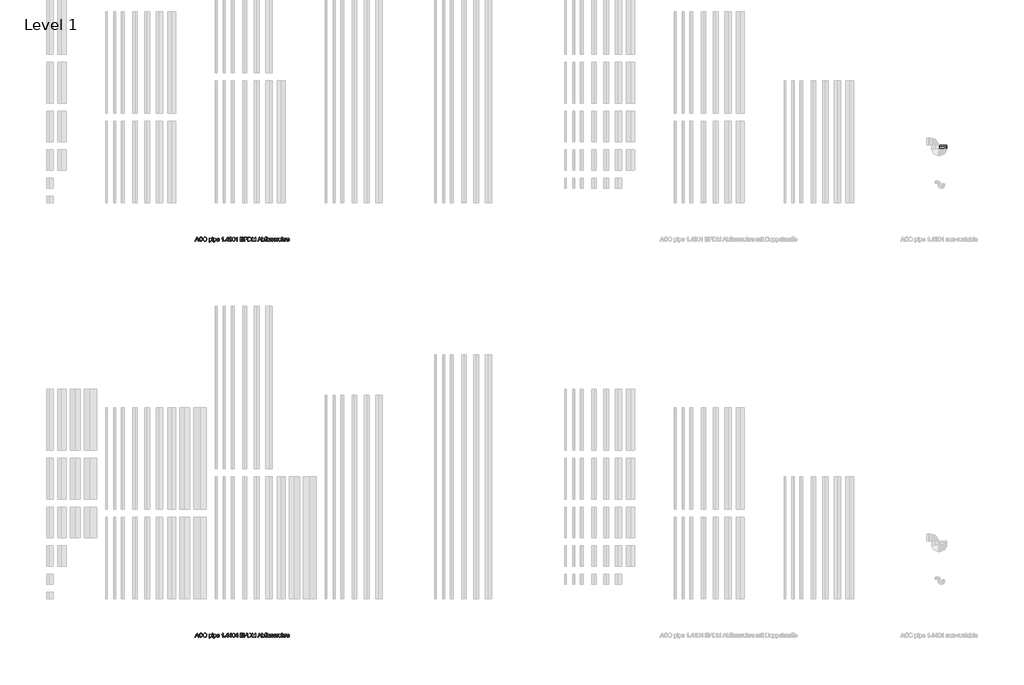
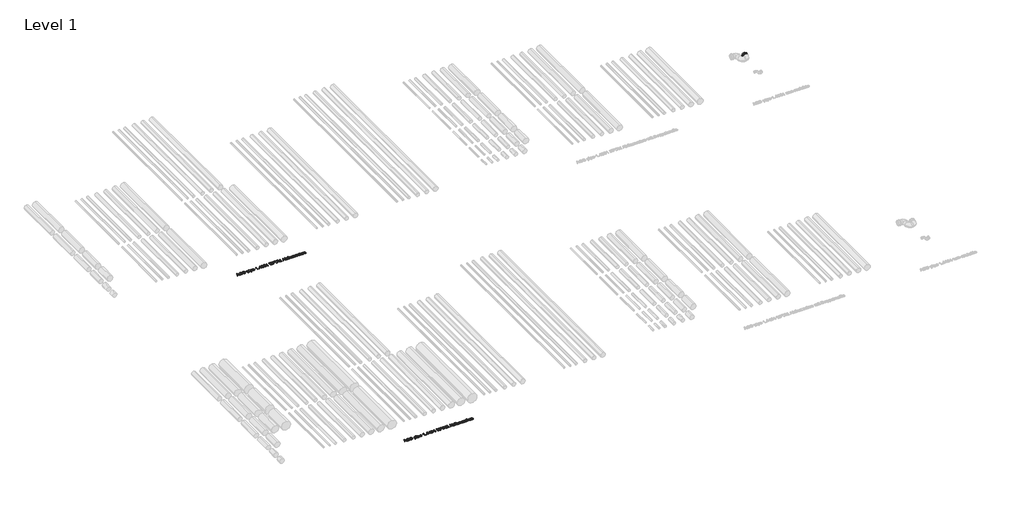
# One storey, part 9 of 13: 2 proxies, 1 pipe fitting.
"""IFC4 building model written with IfcOpenShell, lengths in millimetres."""

from ifc_helpers import new_model, si_unit, origin, origin_with_axes, place, context, project, spatial, polyline, outline, extrude, transform, mapped, element, save
from components import std_nested_4988e8d9

model = new_model("IFC4")

# Units and contexts
model_context = context("Model", 3, world=origin())
ifc_project = project(units=[si_unit("LENGTHUNIT", "METRE", prefix="MILLI")], contexts=[model_context])

# Site, building, storey
site = spatial("IfcSite", under=ifc_project)
building = spatial("IfcBuilding", under=site)
storey = spatial("IfcBuildingStorey", under=building, Name="Level 1", Elevation=0.0)

# Proxies
placement = place(None, origin())
element("IfcBuildingElementProxy", 1, Name="100mm ACO", ObjectType="100mm ACO", at=placement, inside=storey, context=model_context, shape_type="SweptSolid", body=[
    extrude(outline(polyline([(3288.8757357, -969.2114353), (3275.0736524, -969.2114353), (3263.0944857, -939.5818057), (3220.6465691, -939.5818057), (3209.1303654, -969.2114353), (3195.3572172, -969.2114353), (3234.2171709, -869.2114353), (3248.3954116, -869.2114353), (3288.8757357, -969.2114353)]), holes=[polyline([(3258.5805968, -928.4706946), (3244.156407, -891.8098149), (3241.1905505, -880.1489353), (3236.5319857, -898.7253242), (3224.9868468, -928.4706946), (3258.5805968, -928.4706946)])]), origin_with_axes(), (0.0, 0.0, 1.0), 10.0),
    extrude(outline(polyline([(3382.8572172, -937.3827316), (3376.9435887, -952.2083971), (3367.8253885, -962.7154862), (3356.0379174, -968.9763369), (3342.1164765, -971.0632872), (3321.2108052, -967.2076737), (3306.8734209, -955.6408335), (3298.5834904, -938.648646), (3295.8201802, -918.5169909), (3299.0645378, -897.1302721), (3308.7976107, -880.9446529), (3323.63051, -870.7558508), (3342.1743468, -867.3595835), (3355.4881489, -869.1716494), (3366.7258515, -874.6078473), (3375.3955563, -883.5379689), (3381.0053654, -895.8318057), (3368.0424024, -898.8410649), (3358.1899718, -883.5777548), (3341.6824487, -878.4706946), (3327.4608052, -881.1797513), (3317.1454116, -889.3069214), (3310.8737103, -901.9913832), (3308.7831431, -918.3723149), (3310.9966848, -936.7353068), (3317.6373098, -949.6946529), (3327.8369626, -957.3877953), (3340.7275876, -959.9521761), (3351.296164, -958.3354226), (3359.6801339, -953.4851622), (3365.8794973, -945.3869272), (3369.8942542, -934.0262501), (3382.8572172, -937.3827316)])), origin_with_axes(), (0.0, 0.0, 1.0), 10.0),
    extrude(outline(polyline([(3442.203282, -867.3595835), (3460.6928654, -870.9330788), (3475.478745, -881.6535649), (3485.1792658, -898.2261923), (3488.4127728, -919.3561112), (3485.1611813, -940.3956078), (3475.406407, -956.8705788), (3460.6024429, -967.5151101), (3442.203282, -971.0632872), (3423.3303075, -967.3849017), (3408.5516616, -956.3497455), (3399.0030505, -940.0194504), (3395.8201802, -920.4556483), (3399.0464533, -898.3744851), (3408.7252728, -881.5522918), (3423.5473214, -870.9077605), (3442.203282, -867.3595835)]), holes=[polyline([(3442.0875413, -959.9521761), (3455.5279348, -957.2684376), (3466.1616154, -949.2172223), (3473.098826, -936.3844677), (3475.4498098, -919.3561112), (3473.0952091, -901.9479804), (3466.031407, -889.0754399), (3455.4013434, -881.1218809), (3442.3479579, -878.4706946), (3429.0016038, -881.0676274), (3418.2449487, -888.8584261), (3411.1485945, -902.0167015), (3408.7831431, -920.7160649), (3411.0979579, -936.5978647), (3418.0424024, -949.1159492), (3428.6833167, -957.2431193), (3442.0875413, -959.9521761)])]), origin_with_axes(), (0.0, 0.0, 1.0), 10.0),
    extrude(outline(polyline([(3557.0614996, -905.6987038), (3565.5178075, -897.7776969), (3577.1859209, -895.1373612), (3589.5123098, -897.7270603), (3598.9451802, -905.4961575), (3604.9347635, -917.4246876), (3606.9312913, -932.4926853), (3604.6743468, -948.3817189), (3597.9035135, -960.6321529), (3587.8485366, -968.4555036), (3575.7391616, -971.0632872), (3565.3658978, -968.9365511), (3557.2785135, -962.5563427), (3556.9312913, -996.9892131), (3543.9683283, -996.9892131), (3543.9683283, -896.9892131), (3556.9312913, -896.9892131), (3557.0614996, -905.6987038)]), holes=[polyline([(3574.3213376, -961.8040279), (3582.0940517, -959.9774943), (3588.3983052, -954.4978936), (3592.5758225, -945.4013948), (3593.9683283, -932.7241668), (3592.6264591, -920.6473439), (3588.6008515, -911.7316899), (3582.4846767, -906.2303879), (3574.8711061, -904.3966205), (3566.989885, -906.4401679), (3560.6494626, -912.5708103), (3556.4719452, -921.956661), (3555.0794394, -933.7658335), (3556.4140748, -945.8788254), (3560.4179811, -954.6715048), (3566.563091, -960.0208971), (3574.3213376, -961.8040279)])]), origin_with_axes(), (0.0, 0.0, 1.0), 10.0),
    extrude(outline(polyline([(3634.7090691, -969.2114353), (3621.7461061, -969.2114353), (3621.7461061, -896.9892131), (3634.7090691, -896.9892131), (3634.7090691, -969.2114353)])), origin_with_axes(), (0.0, 0.0, 1.0), 10.0),
    extrude(outline(polyline([(3634.7090691, -882.1743983), (3621.7461061, -882.1743983), (3621.7461061, -869.2114353), (3634.7090691, -869.2114353), (3634.7090691, -882.1743983)])), origin_with_axes(), (0.0, 0.0, 1.0), 10.0),
    extrude(outline(polyline([(3666.3207589, -905.6987038), (3674.7770667, -897.7776969), (3686.4451802, -895.1373612), (3698.7715691, -897.7270603), (3708.2044394, -905.4961575), (3714.1940228, -917.4246876), (3716.1905505, -932.4926853), (3713.9336061, -948.3817189), (3707.1627728, -960.6321529), (3697.1077959, -968.4555036), (3684.9984209, -971.0632872), (3674.625157, -968.9365511), (3666.5377728, -962.5563427), (3666.1905505, -996.9892131), (3653.2275876, -996.9892131), (3653.2275876, -896.9892131), (3666.1905505, -896.9892131), (3666.3207589, -905.6987038)]), holes=[polyline([(3683.5805968, -961.8040279), (3691.353311, -959.9774943), (3697.6575644, -954.4978936), (3701.8350818, -945.4013948), (3703.2275876, -932.7241668), (3701.8857184, -920.6473439), (3697.8601107, -911.7316899), (3691.743936, -906.2303879), (3684.1303654, -904.3966205), (3676.2491443, -906.4401679), (3669.9087218, -912.5708103), (3665.7312045, -921.956661), (3664.3386987, -933.7658335), (3665.6733341, -945.8788254), (3669.6772404, -954.6715048), (3675.8223503, -960.0208971), (3683.5805968, -961.8040279)])]), origin_with_axes(), (0.0, 0.0, 1.0), 10.0),
    extrude(outline(polyline([(3793.9683283, -935.878102), (3740.2646246, -935.878102), (3742.3371073, -947.0036807), (3747.0499255, -955.1489353), (3753.8316096, -960.1402548), (3762.1106894, -961.8040279), (3773.7860366, -958.1147918), (3781.0053654, -946.9892131), (3793.9683283, -948.4938427), (3789.5918816, -958.1147918), (3782.6546709, -965.2183798), (3773.4098792, -969.6020603), (3762.1106894, -971.0632872), (3747.5237392, -968.5567767), (3736.5175181, -961.0372455), (3729.6056258, -949.1774365), (3727.3016616, -933.6500927), (3729.5224371, -918.1118983), (3736.1847635, -905.8144446), (3746.8835482, -897.8066321), (3761.2136987, -895.1373612), (3776.4336061, -898.5951159), (3788.8612681, -910.3717362), (3792.6915633, -920.9077605), (3793.9683283, -935.878102)]), holes=[polyline([(3781.0053654, -926.6188427), (3778.922032, -916.4625927), (3774.1766616, -909.6049538), (3760.8954116, -904.3966205), (3753.0395089, -905.9446529), (3746.7171709, -910.5887501), (3740.2646246, -926.6188427), (3781.0053654, -926.6188427)])]), origin_with_axes(), (0.0, 0.0, 1.0), 10.0),
    extrude(outline(polyline([(3892.1164765, -969.2114353), (3879.1535135, -969.2114353), (3879.1535135, -891.4336575), (3855.0794394, -906.2484723), (3855.0794394, -896.9892131), (3873.3520089, -885.2704631), (3884.7090691, -871.0632872), (3892.1164765, -871.0632872), (3892.1164765, -969.2114353)])), origin_with_axes(), (0.0, 0.0, 1.0), 10.0),
    extrude(outline(polyline([(3943.9683283, -969.2114353), (3929.1535135, -969.2114353), (3929.1535135, -954.3966205), (3943.9683283, -954.3966205), (3943.9683283, -969.2114353)])), origin_with_axes(), (0.0, 0.0, 1.0), 10.0),
    extrude(outline(polyline([(4025.4498098, -945.1373612), (4012.4868468, -945.1373612), (4012.4868468, -969.2114353), (3999.5238839, -969.2114353), (3999.5238839, -945.1373612), (3956.9312913, -945.1373612), (3956.9312913, -935.878102), (4001.8386987, -871.0632872), (4012.4868468, -871.0632872), (4012.4868468, -935.878102), (4025.4498098, -935.878102), (4025.4498098, -945.1373612)]), holes=[polyline([(3999.5238839, -935.878102), (3999.5238839, -889.9868983), (3967.7530505, -935.878102), (3999.5238839, -935.878102)])]), origin_with_axes(), (0.0, 0.0, 1.0), 10.0),
    extrude(outline(polyline([(4085.8954116, -915.6090048), (4094.2251281, -918.8461286), (4100.2327959, -924.6367825), (4105.0794394, -940.1605094), (4102.5548445, -952.4688138), (4094.9810598, -962.368264), (4083.8916501, -968.8895314), (4070.8201802, -971.0632872), (4058.540811, -969.1463311), (4048.6124255, -963.3954631), (4041.6860656, -954.4978936), (4038.4127728, -943.1408335), (4051.3757357, -941.4336575), (4058.2044394, -956.7259029), (4071.2542079, -961.8040279), (4079.3235077, -960.2776969), (4086.0545552, -955.6987038), (4090.6009961, -948.9061691), (4092.1164765, -940.7392131), (4090.6950355, -932.9809666), (4086.4307126, -926.6622455), (4079.8732762, -922.4630267), (4071.572495, -921.0632872), (4062.4868468, -922.915139), (4063.9336061, -911.8040279), (4071.8039765, -911.3121298), (4078.2854579, -908.9105094), (4084.2171709, -903.4417594), (4086.5609209, -894.6165279), (4081.7721478, -882.6952316), (4070.6755042, -878.4706946), (4058.9422866, -883.2739353), (4053.2275876, -896.9892131), (4040.2646246, -894.7612038), (4044.1021535, -883.5741379), (4050.8114996, -875.5916436), (4059.7560887, -870.8064874), (4070.2993468, -869.2114353), (4081.764914, -871.103073), (4091.1616154, -876.7779862), (4097.4333167, -885.1872744), (4099.5238839, -895.2820372), (4096.1167658, -907.3480094), (4085.8954116, -915.6090048)])), origin_with_axes(), (0.0, 0.0, 1.0), 10.0),
    extrude(outline(polyline([(4149.4949487, -869.2114353), (4164.0909412, -872.3979226), (4174.5166501, -881.9573844), (4180.7720754, -897.8898207), (4182.8572172, -920.1952316), (4180.7015459, -942.6670198), (4174.234532, -958.5198844), (4163.7382936, -967.9274365), (4149.4949487, -971.0632872), (4134.9242745, -967.8840337), (4124.5166501, -958.3462733), (4118.2720754, -942.4500059), (4116.1905505, -920.1952316), (4118.3462218, -897.7270603), (4124.8132357, -881.8271761), (4135.2950066, -872.3653705), (4149.4949487, -869.2114353)]), holes=[polyline([(4149.5238839, -961.8040279), (4158.3635829, -959.3698554), (4164.7437913, -952.0673381), (4168.6066385, -939.2309666), (4169.8942542, -920.1952316), (4167.6373098, -895.9764816), (4160.8230737, -882.8109723), (4149.3792079, -878.4706946), (4140.5575934, -880.9482698), (4134.2316385, -888.3809955), (4130.4230448, -901.289705), (4129.1535135, -920.1952316), (4131.4538607, -944.2548381), (4138.2680968, -957.4637501), (4149.5238839, -961.8040279)])]), origin_with_axes(), (0.0, 0.0, 1.0), 10.0),
    extrude(outline(polyline([(4242.1164765, -969.2114353), (4229.1535135, -969.2114353), (4229.1535135, -891.4336575), (4205.0794394, -906.2484723), (4205.0794394, -896.9892131), (4223.3520089, -885.2704631), (4234.7090691, -871.0632872), (4242.1164765, -871.0632872), (4242.1164765, -969.2114353)])), origin_with_axes(), (0.0, 0.0, 1.0), 10.0),
    extrude(outline(polyline([(4390.2646246, -969.2114353), (4316.1905505, -969.2114353), (4316.1905505, -869.2114353), (4388.4127728, -869.2114353), (4388.4127728, -880.3225464), (4329.1535135, -880.3225464), (4329.1535135, -911.8040279), (4384.7090691, -911.8040279), (4384.7090691, -922.915139), (4329.1535135, -922.915139), (4329.1535135, -958.1003242), (4390.2646246, -958.1003242), (4390.2646246, -969.2114353)])), origin_with_axes(), (0.0, 0.0, 1.0), 10.0),
    extrude(outline(polyline([(4408.7831431, -869.2114353), (4446.3410135, -869.2114353), (4461.6477265, -870.0939585), (4473.5690228, -874.6801853), (4481.8878885, -884.7351622), (4484.7090691, -898.0308798), (4482.4846767, -910.4621587), (4475.8114996, -920.1518288), (4464.2338086, -926.3909781), (4447.2958746, -928.4706946), (4421.7461061, -928.4706946), (4421.7461061, -969.2114353), (4408.7831431, -969.2114353), (4408.7831431, -869.2114353)]), holes=[polyline([(4421.7461061, -917.3595835), (4447.8167079, -917.3595835), (4465.7637566, -912.6214469), (4470.2505187, -906.6987762), (4471.7461061, -898.4070372), (4468.6355737, -887.4261344), (4460.9966848, -881.4944214), (4447.5273561, -880.3225464), (4421.7461061, -880.3225464), (4421.7461061, -917.3595835)])]), origin_with_axes(), (0.0, 0.0, 1.0), 10.0),
    extrude(outline(polyline([(4501.3757357, -869.2114353), (4535.4035135, -869.2114353), (4550.797032, -870.1373612), (4563.1234209, -874.6367825), (4573.4098792, -884.4892131), (4580.3398561, -898.9134029), (4582.8572172, -918.6616668), (4580.2675181, -938.7969388), (4572.4984209, -954.9897918), (4558.4142195, -965.6560244), (4536.8792079, -969.2114353), (4501.3757357, -969.2114353), (4501.3757357, -869.2114353)]), holes=[polyline([(4514.3386987, -958.1003242), (4535.6639302, -958.1003242), (4547.3103422, -957.2612038), (4557.7125413, -952.7328473), (4566.4364996, -940.6379399), (4569.8942542, -918.3723149), (4568.5632357, -904.0783335), (4563.6731894, -891.9689585), (4555.4989996, -883.9683798), (4546.500157, -880.8723149), (4535.2588376, -880.3225464), (4514.3386987, -880.3225464), (4514.3386987, -958.1003242)])]), origin_with_axes(), (0.0, 0.0, 1.0), 10.0),
    extrude(outline(polyline([(4693.9683283, -969.2114353), (4681.0053654, -969.2114353), (4681.0053654, -885.415139), (4655.484532, -969.2114353), (4641.7113839, -969.2114353), (4614.7148561, -884.0551853), (4614.3386987, -969.2114353), (4601.3757357, -969.2114353), (4601.3757357, -869.2114353), (4621.0805968, -869.2114353), (4643.9104579, -940.0737038), (4648.3375413, -954.8885186), (4653.3433283, -938.8584261), (4674.697495, -869.2114353), (4693.9683283, -869.2114353), (4693.9683283, -969.2114353)])), origin_with_axes(), (0.0, 0.0, 1.0), 10.0),
    extrude(outline(polyline([(4837.0238839, -969.2114353), (4823.2218005, -969.2114353), (4811.2426339, -939.5818057), (4768.7947172, -939.5818057), (4757.2785135, -969.2114353), (4743.5053654, -969.2114353), (4782.3653191, -869.2114353), (4796.5435598, -869.2114353), (4837.0238839, -969.2114353)]), holes=[polyline([(4806.728745, -928.4706946), (4792.3045552, -891.8098149), (4789.3386987, -880.1489353), (4784.6801339, -898.7253242), (4773.134995, -928.4706946), (4806.728745, -928.4706946)])]), origin_with_axes(), (0.0, 0.0, 1.0), 10.0),
    extrude(outline(polyline([(4858.9567542, -904.1362038), (4867.3190228, -897.3870719), (4878.4011987, -895.1373612), (4890.8252438, -897.6836575), (4900.4932126, -905.3225464), (4906.7106605, -917.0702316), (4908.7831431, -931.9429168), (4906.5044973, -948.6783045), (4899.6685598, -960.9793751), (4889.7799603, -968.5423092), (4878.3433283, -971.0632872), (4867.3262566, -968.5893288), (4859.0435598, -961.1674538), (4858.7831431, -969.2114353), (4845.8201802, -969.2114353), (4845.8201802, -869.2114353), (4858.7831431, -869.2114353), (4858.9567542, -904.1362038)]), holes=[polyline([(4877.1280505, -961.8040279), (4884.5463086, -959.9123902), (4890.5395089, -954.237477), (4894.5000123, -945.1409781), (4895.8201802, -932.9845835), (4890.9590691, -912.1078473), (4885.172032, -906.3244272), (4877.5331431, -904.3966205), (4869.9087218, -906.3859145), (4863.9336061, -912.3537964), (4858.7831431, -932.4926853), (4860.9243468, -949.4487038), (4867.3768931, -958.143727), (4877.1280505, -961.8040279)])]), origin_with_axes(), (0.0, 0.0, 1.0), 10.0),
    extrude(outline(polyline([(4956.9312913, -868.3144446), (4955.3398561, -876.6188427), (4949.0319857, -876.6188427), (4942.7241154, -878.7455788), (4940.2646246, -889.2635186), (4940.2646246, -896.9892131), (4951.3757357, -896.9892131), (4951.3757357, -906.2484723), (4940.2646246, -906.2484723), (4940.2646246, -969.2114353), (4927.3016616, -969.2114353), (4927.3016616, -906.2484723), (4916.1905505, -906.2484723), (4916.1905505, -896.9892131), (4927.3016616, -896.9892131), (4927.3016616, -889.0609723), (4928.2709904, -879.0783335), (4933.3780505, -870.9764816), (4946.1384672, -867.3595835), (4956.9312913, -868.3144446)])), origin_with_axes(), (0.0, 0.0, 1.0), 10.0),
    extrude(outline(polyline([(4975.4498098, -969.2114353), (4962.4868468, -969.2114353), (4962.4868468, -869.2114353), (4975.4498098, -869.2114353), (4975.4498098, -969.2114353)])), origin_with_axes(), (0.0, 0.0, 1.0), 10.0),
    extrude(outline(polyline([(5053.2275876, -969.2114353), (5042.1164765, -969.2114353), (5042.1164765, -958.7079631), (5031.8734209, -967.9744561), (5018.9104579, -971.0632872), (5004.7900876, -967.5476622), (4996.1384672, -957.8688427), (4993.9683283, -941.8676853), (4993.9683283, -896.9892131), (5006.9312913, -896.9892131), (5006.9312913, -937.9614353), (5007.828282, -952.0528705), (5012.515782, -959.0551853), (5021.5435598, -961.8040279), (5034.2895089, -956.8850464), (5038.7708457, -949.3329631), (5040.2646246, -936.5146761), (5040.2646246, -896.9892131), (5053.2275876, -896.9892131), (5053.2275876, -969.2114353)])), origin_with_axes(), (0.0, 0.0, 1.0), 10.0),
    extrude(outline(polyline([(5112.4868468, -917.3595835), (5107.6980737, -907.6373612), (5096.6303654, -904.3966205), (5085.3167079, -907.1743983), (5081.0053654, -915.2473149), (5083.8554811, -922.3943057), (5097.2958746, -926.2716205), (5115.0186755, -930.4382872), (5124.0609209, -936.7606251), (5127.3016616, -948.0887501), (5125.2906663, -957.0188717), (5119.2576802, -964.4226622), (5109.8609788, -969.4031309), (5097.7588376, -971.0632872), (5085.2841559, -969.6671645), (5075.86937, -965.4787964), (5069.5072461, -958.5054168), (5066.1905505, -948.7542594), (5079.1535135, -946.9892131), (5084.7524718, -958.1147918), (5097.7588376, -961.8040279), (5110.0562913, -957.9701159), (5114.3386987, -948.6385186), (5112.4145089, -942.6634029), (5107.6112681, -939.2924538), (5094.0261987, -936.3989353), (5073.0915922, -928.5864353), (5068.0424024, -915.9996298), (5069.9123387, -907.7133161), (5075.5221478, -901.0256714), (5084.2931258, -896.6094388), (5095.6465691, -895.1373612), (5107.578716, -896.424977), (5116.5233052, -900.2878242), (5122.4803364, -906.7186691), (5125.4498098, -915.7102779), (5112.4868468, -917.3595835)])), origin_with_axes(), (0.0, 0.0, 1.0), 10.0),
    extrude(outline(polyline([(5181.0053654, -917.3595835), (5176.2165922, -907.6373612), (5165.1488839, -904.3966205), (5153.8352265, -907.1743983), (5149.5238839, -915.2473149), (5152.3739996, -922.3943057), (5165.8143931, -926.2716205), (5183.5371941, -930.4382872), (5192.5794394, -936.7606251), (5195.8201802, -948.0887501), (5193.8091848, -957.0188717), (5187.7761987, -964.4226622), (5178.3794973, -969.4031309), (5166.2773561, -971.0632872), (5153.8026744, -969.6671645), (5144.3878885, -965.4787964), (5138.0257647, -958.5054168), (5134.7090691, -948.7542594), (5147.672032, -946.9892131), (5153.2709904, -958.1147918), (5166.2773561, -961.8040279), (5178.5748098, -957.9701159), (5182.8572172, -948.6385186), (5180.9330274, -942.6634029), (5176.1297866, -939.2924538), (5162.5447172, -936.3989353), (5141.6101107, -928.5864353), (5136.5609209, -915.9996298), (5138.4308573, -907.7133161), (5144.0406663, -901.0256714), (5152.8116443, -896.6094388), (5164.1650876, -895.1373612), (5176.0972346, -896.424977), (5185.0418237, -900.2878242), (5190.9988549, -906.7186691), (5193.9683283, -915.7102779), (5181.0053654, -917.3595835)])), origin_with_axes(), (0.0, 0.0, 1.0), 10.0),
    extrude(outline(polyline([(5247.672032, -897.9730094), (5243.6211061, -906.2484723), (5235.1141616, -904.3966205), (5229.3198908, -906.0242247), (5225.1315228, -910.9070372), (5221.7461061, -929.1362038), (5221.7461061, -969.2114353), (5208.7831431, -969.2114353), (5208.7831431, -896.9892131), (5219.8942542, -896.9892131), (5219.8942542, -907.6952316), (5226.8242311, -898.2768288), (5235.2588376, -895.1373612), (5247.672032, -897.9730094)])), origin_with_axes(), (0.0, 0.0, 1.0), 10.0),
    extrude(outline(polyline([(5284.6801339, -895.1373612), (5297.8564938, -897.5317478), (5308.5661292, -904.7149075), (5315.6733341, -916.310683), (5318.0424024, -931.9429168), (5315.4780216, -950.2154862), (5307.7848792, -962.2091205), (5296.8799313, -968.8497455), (5284.6801339, -971.0632872), (5272.0897114, -968.7882582), (5261.2860366, -961.9631714), (5253.853311, -950.1974017), (5251.3757357, -933.1003242), (5253.7701223, -916.383021), (5260.953282, -904.5412964), (5271.6737681, -897.488345), (5284.6801339, -895.1373612)]), holes=[polyline([(5284.6801339, -961.8040279), (5293.4872809, -959.7966494), (5299.8855737, -953.774514), (5305.0794394, -932.6373612), (5303.6109788, -920.3543751), (5299.2055968, -911.5146761), (5292.6373098, -906.1761344), (5284.6801339, -904.3966205), (5276.5674313, -906.2014527), (5270.0533978, -911.6159492), (5265.7673735, -920.6039411), (5264.3386987, -933.1292594), (5265.7926917, -945.6111749), (5270.1546709, -954.5846992), (5276.6940228, -959.9991957), (5284.6801339, -961.8040279)])]), origin_with_axes(), (0.0, 0.0, 1.0), 10.0),
    extrude(outline(polyline([(5392.1164765, -969.2114353), (5379.1535135, -969.2114353), (5379.1535135, -922.5100464), (5375.4642774, -908.924977), (5364.4544394, -904.3966205), (5351.5204116, -909.7351622), (5347.245238, -917.1678879), (5345.8201802, -928.7889816), (5345.8201802, -969.2114353), (5332.8572172, -969.2114353), (5332.8572172, -869.2114353), (5345.8201802, -869.2114353), (5345.8201802, -905.0331946), (5355.520701, -897.6113196), (5367.3768931, -895.1373612), (5380.6581431, -898.0019446), (5389.5557126, -906.8127085), (5392.1164765, -923.3202316), (5392.1164765, -969.2114353)])), origin_with_axes(), (0.0, 0.0, 1.0), 10.0),
    extrude(outline(polyline([(5449.5238839, -897.9730094), (5445.4729579, -906.2484723), (5436.9660135, -904.3966205), (5431.1717427, -906.0242247), (5426.9833746, -910.9070372), (5423.5979579, -929.1362038), (5423.5979579, -969.2114353), (5410.634995, -969.2114353), (5410.634995, -896.9892131), (5421.7461061, -896.9892131), (5421.7461061, -907.6952316), (5428.6760829, -898.2768288), (5437.1106894, -895.1373612), (5449.5238839, -897.9730094)])), origin_with_axes(), (0.0, 0.0, 1.0), 10.0),
    extrude(outline(polyline([(5519.8942542, -935.878102), (5466.1905505, -935.878102), (5468.2630332, -947.0036807), (5472.9758515, -955.1489353), (5479.7575355, -960.1402548), (5488.0366154, -961.8040279), (5499.7119626, -958.1147918), (5506.9312913, -946.9892131), (5519.8942542, -948.4938427), (5515.5178075, -958.1147918), (5508.5805968, -965.2183798), (5499.3358052, -969.6020603), (5488.0366154, -971.0632872), (5473.4496651, -968.5567767), (5462.4434441, -961.0372455), (5455.5315517, -949.1774365), (5453.2275876, -933.6500927), (5455.448363, -918.1118983), (5462.1106894, -905.8144446), (5472.8094741, -897.8066321), (5487.1396246, -895.1373612), (5502.359532, -898.5951159), (5514.7871941, -910.3717362), (5518.6174892, -920.9077605), (5519.8942542, -935.878102)]), holes=[polyline([(5506.9312913, -926.6188427), (5504.8479579, -916.4625927), (5500.1025876, -909.6049538), (5486.8213376, -904.3966205), (5478.9654348, -905.9446529), (5472.6430968, -910.5887501), (5466.1905505, -926.6188427), (5506.9312913, -926.6188427)])]), origin_with_axes(), (0.0, 0.0, 1.0), 10.0),
])
element("IfcBuildingElementProxy", 2, Name="100mm ACO", ObjectType="100mm ACO", at=placement, inside=storey, context=model_context, shape_type="SweptSolid", body=[
    extrude(outline(polyline([(3288.8757357, -10719.2114353), (3275.0736524, -10719.2114353), (3263.0944857, -10689.5818057), (3220.6465691, -10689.5818057), (3209.1303654, -10719.2114353), (3195.3572172, -10719.2114353), (3234.2171709, -10619.2114353), (3248.3954116, -10619.2114353), (3288.8757357, -10719.2114353)]), holes=[polyline([(3258.5805968, -10678.4706946), (3244.156407, -10641.8098149), (3241.1905505, -10630.1489353), (3236.5319857, -10648.7253242), (3224.9868468, -10678.4706946), (3258.5805968, -10678.4706946)])]), origin_with_axes(), (0.0, 0.0, 1.0), 10.0),
    extrude(outline(polyline([(3382.8572172, -10687.3827316), (3376.9435887, -10702.2083971), (3367.8253885, -10712.7154862), (3356.0379174, -10718.9763369), (3342.1164765, -10721.0632872), (3321.2108052, -10717.2076737), (3306.8734209, -10705.6408335), (3298.5834904, -10688.648646), (3295.8201802, -10668.5169909), (3299.0645378, -10647.1302721), (3308.7976107, -10630.9446529), (3323.63051, -10620.7558508), (3342.1743468, -10617.3595835), (3355.4881489, -10619.1716494), (3366.7258515, -10624.6078473), (3375.3955563, -10633.5379689), (3381.0053654, -10645.8318057), (3368.0424024, -10648.8410649), (3358.1899718, -10633.5777548), (3341.6824487, -10628.4706946), (3327.4608052, -10631.1797513), (3317.1454116, -10639.3069214), (3310.8737103, -10651.9913832), (3308.7831431, -10668.3723149), (3310.9966848, -10686.7353068), (3317.6373098, -10699.6946529), (3327.8369626, -10707.3877953), (3340.7275876, -10709.9521761), (3351.296164, -10708.3354226), (3359.6801339, -10703.4851622), (3365.8794973, -10695.3869272), (3369.8942542, -10684.0262501), (3382.8572172, -10687.3827316)])), origin_with_axes(), (0.0, 0.0, 1.0), 10.0),
    extrude(outline(polyline([(3442.203282, -10617.3595835), (3460.6928654, -10620.9330788), (3475.478745, -10631.6535649), (3485.1792658, -10648.2261923), (3488.4127728, -10669.3561112), (3485.1611813, -10690.3956078), (3475.406407, -10706.8705788), (3460.6024429, -10717.5151101), (3442.203282, -10721.0632872), (3423.3303075, -10717.3849017), (3408.5516616, -10706.3497455), (3399.0030505, -10690.0194504), (3395.8201802, -10670.4556483), (3399.0464533, -10648.3744851), (3408.7252728, -10631.5522918), (3423.5473214, -10620.9077605), (3442.203282, -10617.3595835)]), holes=[polyline([(3442.0875413, -10709.9521761), (3455.5279348, -10707.2684376), (3466.1616154, -10699.2172223), (3473.098826, -10686.3844677), (3475.4498098, -10669.3561112), (3473.0952091, -10651.9479804), (3466.031407, -10639.0754399), (3455.4013434, -10631.1218809), (3442.3479579, -10628.4706946), (3429.0016038, -10631.0676274), (3418.2449487, -10638.8584261), (3411.1485945, -10652.0167015), (3408.7831431, -10670.7160649), (3411.0979579, -10686.5978647), (3418.0424024, -10699.1159492), (3428.6833167, -10707.2431193), (3442.0875413, -10709.9521761)])]), origin_with_axes(), (0.0, 0.0, 1.0), 10.0),
    extrude(outline(polyline([(3557.0614996, -10655.6987038), (3565.5178075, -10647.7776969), (3577.1859209, -10645.1373612), (3589.5123098, -10647.7270603), (3598.9451802, -10655.4961575), (3604.9347635, -10667.4246876), (3606.9312913, -10682.4926853), (3604.6743468, -10698.3817189), (3597.9035135, -10710.6321529), (3587.8485366, -10718.4555036), (3575.7391616, -10721.0632872), (3565.3658978, -10718.9365511), (3557.2785135, -10712.5563427), (3556.9312913, -10746.9892131), (3543.9683283, -10746.9892131), (3543.9683283, -10646.9892131), (3556.9312913, -10646.9892131), (3557.0614996, -10655.6987038)]), holes=[polyline([(3574.3213376, -10711.8040279), (3582.0940517, -10709.9774943), (3588.3983052, -10704.4978936), (3592.5758225, -10695.4013948), (3593.9683283, -10682.7241668), (3592.6264591, -10670.6473439), (3588.6008515, -10661.7316899), (3582.4846767, -10656.2303879), (3574.8711061, -10654.3966205), (3566.989885, -10656.4401679), (3560.6494626, -10662.5708103), (3556.4719452, -10671.956661), (3555.0794394, -10683.7658335), (3556.4140748, -10695.8788254), (3560.4179811, -10704.6715048), (3566.563091, -10710.0208971), (3574.3213376, -10711.8040279)])]), origin_with_axes(), (0.0, 0.0, 1.0), 10.0),
    extrude(outline(polyline([(3634.7090691, -10719.2114353), (3621.7461061, -10719.2114353), (3621.7461061, -10646.9892131), (3634.7090691, -10646.9892131), (3634.7090691, -10719.2114353)])), origin_with_axes(), (0.0, 0.0, 1.0), 10.0),
    extrude(outline(polyline([(3634.7090691, -10632.1743983), (3621.7461061, -10632.1743983), (3621.7461061, -10619.2114353), (3634.7090691, -10619.2114353), (3634.7090691, -10632.1743983)])), origin_with_axes(), (0.0, 0.0, 1.0), 10.0),
    extrude(outline(polyline([(3666.3207589, -10655.6987038), (3674.7770667, -10647.7776969), (3686.4451802, -10645.1373612), (3698.7715691, -10647.7270603), (3708.2044394, -10655.4961575), (3714.1940228, -10667.4246876), (3716.1905505, -10682.4926853), (3713.9336061, -10698.3817189), (3707.1627728, -10710.6321529), (3697.1077959, -10718.4555036), (3684.9984209, -10721.0632872), (3674.625157, -10718.9365511), (3666.5377728, -10712.5563427), (3666.1905505, -10746.9892131), (3653.2275876, -10746.9892131), (3653.2275876, -10646.9892131), (3666.1905505, -10646.9892131), (3666.3207589, -10655.6987038)]), holes=[polyline([(3683.5805968, -10711.8040279), (3691.353311, -10709.9774943), (3697.6575644, -10704.4978936), (3701.8350818, -10695.4013948), (3703.2275876, -10682.7241668), (3701.8857184, -10670.6473439), (3697.8601107, -10661.7316899), (3691.743936, -10656.2303879), (3684.1303654, -10654.3966205), (3676.2491443, -10656.4401679), (3669.9087218, -10662.5708103), (3665.7312045, -10671.956661), (3664.3386987, -10683.7658335), (3665.6733341, -10695.8788254), (3669.6772404, -10704.6715048), (3675.8223503, -10710.0208971), (3683.5805968, -10711.8040279)])]), origin_with_axes(), (0.0, 0.0, 1.0), 10.0),
    extrude(outline(polyline([(3793.9683283, -10685.878102), (3740.2646246, -10685.878102), (3742.3371073, -10697.0036807), (3747.0499255, -10705.1489353), (3753.8316096, -10710.1402548), (3762.1106894, -10711.8040279), (3773.7860366, -10708.1147918), (3781.0053654, -10696.9892131), (3793.9683283, -10698.4938427), (3789.5918816, -10708.1147918), (3782.6546709, -10715.2183798), (3773.4098792, -10719.6020603), (3762.1106894, -10721.0632872), (3747.5237392, -10718.5567767), (3736.5175181, -10711.0372455), (3729.6056258, -10699.1774365), (3727.3016616, -10683.6500927), (3729.5224371, -10668.1118983), (3736.1847635, -10655.8144446), (3746.8835482, -10647.8066321), (3761.2136987, -10645.1373612), (3776.4336061, -10648.5951159), (3788.8612681, -10660.3717362), (3792.6915633, -10670.9077605), (3793.9683283, -10685.878102)]), holes=[polyline([(3781.0053654, -10676.6188427), (3778.922032, -10666.4625927), (3774.1766616, -10659.6049538), (3760.8954116, -10654.3966205), (3753.0395089, -10655.9446529), (3746.7171709, -10660.5887501), (3740.2646246, -10676.6188427), (3781.0053654, -10676.6188427)])]), origin_with_axes(), (0.0, 0.0, 1.0), 10.0),
    extrude(outline(polyline([(3892.1164765, -10719.2114353), (3879.1535135, -10719.2114353), (3879.1535135, -10641.4336575), (3855.0794394, -10656.2484723), (3855.0794394, -10646.9892131), (3873.3520089, -10635.2704631), (3884.7090691, -10621.0632872), (3892.1164765, -10621.0632872), (3892.1164765, -10719.2114353)])), origin_with_axes(), (0.0, 0.0, 1.0), 10.0),
    extrude(outline(polyline([(3943.9683283, -10719.2114353), (3929.1535135, -10719.2114353), (3929.1535135, -10704.3966205), (3943.9683283, -10704.3966205), (3943.9683283, -10719.2114353)])), origin_with_axes(), (0.0, 0.0, 1.0), 10.0),
    extrude(outline(polyline([(4025.4498098, -10695.1373612), (4012.4868468, -10695.1373612), (4012.4868468, -10719.2114353), (3999.5238839, -10719.2114353), (3999.5238839, -10695.1373612), (3956.9312913, -10695.1373612), (3956.9312913, -10685.878102), (4001.8386987, -10621.0632872), (4012.4868468, -10621.0632872), (4012.4868468, -10685.878102), (4025.4498098, -10685.878102), (4025.4498098, -10695.1373612)]), holes=[polyline([(3999.5238839, -10685.878102), (3999.5238839, -10639.9868983), (3967.7530505, -10685.878102), (3999.5238839, -10685.878102)])]), origin_with_axes(), (0.0, 0.0, 1.0), 10.0),
    extrude(outline(polyline([(4103.2275876, -10695.1373612), (4090.2646246, -10695.1373612), (4090.2646246, -10719.2114353), (4077.3016616, -10719.2114353), (4077.3016616, -10695.1373612), (4034.7090691, -10695.1373612), (4034.7090691, -10685.878102), (4079.6164765, -10621.0632872), (4090.2646246, -10621.0632872), (4090.2646246, -10685.878102), (4103.2275876, -10685.878102), (4103.2275876, -10695.1373612)]), holes=[polyline([(4077.3016616, -10685.878102), (4077.3016616, -10639.9868983), (4045.5308283, -10685.878102), (4077.3016616, -10685.878102)])]), origin_with_axes(), (0.0, 0.0, 1.0), 10.0),
    extrude(outline(polyline([(4149.4949487, -10619.2114353), (4164.0909412, -10622.3979226), (4174.5166501, -10631.9573844), (4180.7720754, -10647.8898207), (4182.8572172, -10670.1952316), (4180.7015459, -10692.6670198), (4174.234532, -10708.5198844), (4163.7382936, -10717.9274365), (4149.4949487, -10721.0632872), (4134.9242745, -10717.8840337), (4124.5166501, -10708.3462733), (4118.2720754, -10692.4500059), (4116.1905505, -10670.1952316), (4118.3462218, -10647.7270603), (4124.8132357, -10631.8271761), (4135.2950066, -10622.3653705), (4149.4949487, -10619.2114353)]), holes=[polyline([(4149.5238839, -10711.8040279), (4158.3635829, -10709.3698554), (4164.7437913, -10702.0673381), (4168.6066385, -10689.2309666), (4169.8942542, -10670.1952316), (4167.6373098, -10645.9764816), (4160.8230737, -10632.8109723), (4149.3792079, -10628.4706946), (4140.5575934, -10630.9482698), (4134.2316385, -10638.3809955), (4130.4230448, -10651.289705), (4129.1535135, -10670.1952316), (4131.4538607, -10694.2548381), (4138.2680968, -10707.4637501), (4149.5238839, -10711.8040279)])]), origin_with_axes(), (0.0, 0.0, 1.0), 10.0),
    extrude(outline(polyline([(4258.7831431, -10695.1373612), (4245.8201802, -10695.1373612), (4245.8201802, -10719.2114353), (4232.8572172, -10719.2114353), (4232.8572172, -10695.1373612), (4190.2646246, -10695.1373612), (4190.2646246, -10685.878102), (4235.172032, -10621.0632872), (4245.8201802, -10621.0632872), (4245.8201802, -10685.878102), (4258.7831431, -10685.878102), (4258.7831431, -10695.1373612)]), holes=[polyline([(4232.8572172, -10685.878102), (4232.8572172, -10639.9868983), (4201.0863839, -10685.878102), (4232.8572172, -10685.878102)])]), origin_with_axes(), (0.0, 0.0, 1.0), 10.0),
    extrude(outline(polyline([(4390.2646246, -10719.2114353), (4316.1905505, -10719.2114353), (4316.1905505, -10619.2114353), (4388.4127728, -10619.2114353), (4388.4127728, -10630.3225464), (4329.1535135, -10630.3225464), (4329.1535135, -10661.8040279), (4384.7090691, -10661.8040279), (4384.7090691, -10672.915139), (4329.1535135, -10672.915139), (4329.1535135, -10708.1003242), (4390.2646246, -10708.1003242), (4390.2646246, -10719.2114353)])), origin_with_axes(), (0.0, 0.0, 1.0), 10.0),
    extrude(outline(polyline([(4408.7831431, -10619.2114353), (4446.3410135, -10619.2114353), (4461.6477265, -10620.0939585), (4473.5690228, -10624.6801853), (4481.8878885, -10634.7351622), (4484.7090691, -10648.0308798), (4482.4846767, -10660.4621587), (4475.8114996, -10670.1518288), (4464.2338086, -10676.3909781), (4447.2958746, -10678.4706946), (4421.7461061, -10678.4706946), (4421.7461061, -10719.2114353), (4408.7831431, -10719.2114353), (4408.7831431, -10619.2114353)]), holes=[polyline([(4421.7461061, -10667.3595835), (4447.8167079, -10667.3595835), (4465.7637566, -10662.6214469), (4470.2505187, -10656.6987762), (4471.7461061, -10648.4070372), (4468.6355737, -10637.4261344), (4460.9966848, -10631.4944214), (4447.5273561, -10630.3225464), (4421.7461061, -10630.3225464), (4421.7461061, -10667.3595835)])]), origin_with_axes(), (0.0, 0.0, 1.0), 10.0),
    extrude(outline(polyline([(4501.3757357, -10619.2114353), (4535.4035135, -10619.2114353), (4550.797032, -10620.1373612), (4563.1234209, -10624.6367825), (4573.4098792, -10634.4892131), (4580.3398561, -10648.9134029), (4582.8572172, -10668.6616668), (4580.2675181, -10688.7969388), (4572.4984209, -10704.9897918), (4558.4142195, -10715.6560244), (4536.8792079, -10719.2114353), (4501.3757357, -10719.2114353), (4501.3757357, -10619.2114353)]), holes=[polyline([(4514.3386987, -10708.1003242), (4535.6639302, -10708.1003242), (4547.3103422, -10707.2612038), (4557.7125413, -10702.7328473), (4566.4364996, -10690.6379399), (4569.8942542, -10668.3723149), (4568.5632357, -10654.0783335), (4563.6731894, -10641.9689585), (4555.4989996, -10633.9683798), (4546.500157, -10630.8723149), (4535.2588376, -10630.3225464), (4514.3386987, -10630.3225464), (4514.3386987, -10708.1003242)])]), origin_with_axes(), (0.0, 0.0, 1.0), 10.0),
    extrude(outline(polyline([(4693.9683283, -10719.2114353), (4681.0053654, -10719.2114353), (4681.0053654, -10635.415139), (4655.484532, -10719.2114353), (4641.7113839, -10719.2114353), (4614.7148561, -10634.0551853), (4614.3386987, -10719.2114353), (4601.3757357, -10719.2114353), (4601.3757357, -10619.2114353), (4621.0805968, -10619.2114353), (4643.9104579, -10690.0737038), (4648.3375413, -10704.8885186), (4653.3433283, -10688.8584261), (4674.697495, -10619.2114353), (4693.9683283, -10619.2114353), (4693.9683283, -10719.2114353)])), origin_with_axes(), (0.0, 0.0, 1.0), 10.0),
    extrude(outline(polyline([(4837.0238839, -10719.2114353), (4823.2218005, -10719.2114353), (4811.2426339, -10689.5818057), (4768.7947172, -10689.5818057), (4757.2785135, -10719.2114353), (4743.5053654, -10719.2114353), (4782.3653191, -10619.2114353), (4796.5435598, -10619.2114353), (4837.0238839, -10719.2114353)]), holes=[polyline([(4806.728745, -10678.4706946), (4792.3045552, -10641.8098149), (4789.3386987, -10630.1489353), (4784.6801339, -10648.7253242), (4773.134995, -10678.4706946), (4806.728745, -10678.4706946)])]), origin_with_axes(), (0.0, 0.0, 1.0), 10.0),
    extrude(outline(polyline([(4858.9567542, -10654.1362038), (4867.3190228, -10647.3870719), (4878.4011987, -10645.1373612), (4890.8252438, -10647.6836575), (4900.4932126, -10655.3225464), (4906.7106605, -10667.0702316), (4908.7831431, -10681.9429168), (4906.5044973, -10698.6783045), (4899.6685598, -10710.9793751), (4889.7799603, -10718.5423092), (4878.3433283, -10721.0632872), (4867.3262566, -10718.5893288), (4859.0435598, -10711.1674538), (4858.7831431, -10719.2114353), (4845.8201802, -10719.2114353), (4845.8201802, -10619.2114353), (4858.7831431, -10619.2114353), (4858.9567542, -10654.1362038)]), holes=[polyline([(4877.1280505, -10711.8040279), (4884.5463086, -10709.9123902), (4890.5395089, -10704.237477), (4894.5000123, -10695.1409781), (4895.8201802, -10682.9845835), (4890.9590691, -10662.1078473), (4885.172032, -10656.3244272), (4877.5331431, -10654.3966205), (4869.9087218, -10656.3859145), (4863.9336061, -10662.3537964), (4858.7831431, -10682.4926853), (4860.9243468, -10699.4487038), (4867.3768931, -10708.143727), (4877.1280505, -10711.8040279)])]), origin_with_axes(), (0.0, 0.0, 1.0), 10.0),
    extrude(outline(polyline([(4956.9312913, -10618.3144446), (4955.3398561, -10626.6188427), (4949.0319857, -10626.6188427), (4942.7241154, -10628.7455788), (4940.2646246, -10639.2635186), (4940.2646246, -10646.9892131), (4951.3757357, -10646.9892131), (4951.3757357, -10656.2484723), (4940.2646246, -10656.2484723), (4940.2646246, -10719.2114353), (4927.3016616, -10719.2114353), (4927.3016616, -10656.2484723), (4916.1905505, -10656.2484723), (4916.1905505, -10646.9892131), (4927.3016616, -10646.9892131), (4927.3016616, -10639.0609723), (4928.2709904, -10629.0783335), (4933.3780505, -10620.9764816), (4946.1384672, -10617.3595835), (4956.9312913, -10618.3144446)])), origin_with_axes(), (0.0, 0.0, 1.0), 10.0),
    extrude(outline(polyline([(4975.4498098, -10719.2114353), (4962.4868468, -10719.2114353), (4962.4868468, -10619.2114353), (4975.4498098, -10619.2114353), (4975.4498098, -10719.2114353)])), origin_with_axes(), (0.0, 0.0, 1.0), 10.0),
    extrude(outline(polyline([(5053.2275876, -10719.2114353), (5042.1164765, -10719.2114353), (5042.1164765, -10708.7079631), (5031.8734209, -10717.9744561), (5018.9104579, -10721.0632872), (5004.7900876, -10717.5476622), (4996.1384672, -10707.8688427), (4993.9683283, -10691.8676853), (4993.9683283, -10646.9892131), (5006.9312913, -10646.9892131), (5006.9312913, -10687.9614353), (5007.828282, -10702.0528705), (5012.515782, -10709.0551853), (5021.5435598, -10711.8040279), (5034.2895089, -10706.8850464), (5038.7708457, -10699.3329631), (5040.2646246, -10686.5146761), (5040.2646246, -10646.9892131), (5053.2275876, -10646.9892131), (5053.2275876, -10719.2114353)])), origin_with_axes(), (0.0, 0.0, 1.0), 10.0),
    extrude(outline(polyline([(5112.4868468, -10667.3595835), (5107.6980737, -10657.6373612), (5096.6303654, -10654.3966205), (5085.3167079, -10657.1743983), (5081.0053654, -10665.2473149), (5083.8554811, -10672.3943057), (5097.2958746, -10676.2716205), (5115.0186755, -10680.4382872), (5124.0609209, -10686.7606251), (5127.3016616, -10698.0887501), (5125.2906663, -10707.0188717), (5119.2576802, -10714.4226622), (5109.8609788, -10719.4031309), (5097.7588376, -10721.0632872), (5085.2841559, -10719.6671645), (5075.86937, -10715.4787964), (5069.5072461, -10708.5054168), (5066.1905505, -10698.7542594), (5079.1535135, -10696.9892131), (5084.7524718, -10708.1147918), (5097.7588376, -10711.8040279), (5110.0562913, -10707.9701159), (5114.3386987, -10698.6385186), (5112.4145089, -10692.6634029), (5107.6112681, -10689.2924538), (5094.0261987, -10686.3989353), (5073.0915922, -10678.5864353), (5068.0424024, -10665.9996298), (5069.9123387, -10657.7133161), (5075.5221478, -10651.0256714), (5084.2931258, -10646.6094388), (5095.6465691, -10645.1373612), (5107.578716, -10646.424977), (5116.5233052, -10650.2878242), (5122.4803364, -10656.7186691), (5125.4498098, -10665.7102779), (5112.4868468, -10667.3595835)])), origin_with_axes(), (0.0, 0.0, 1.0), 10.0),
    extrude(outline(polyline([(5181.0053654, -10667.3595835), (5176.2165922, -10657.6373612), (5165.1488839, -10654.3966205), (5153.8352265, -10657.1743983), (5149.5238839, -10665.2473149), (5152.3739996, -10672.3943057), (5165.8143931, -10676.2716205), (5183.5371941, -10680.4382872), (5192.5794394, -10686.7606251), (5195.8201802, -10698.0887501), (5193.8091848, -10707.0188717), (5187.7761987, -10714.4226622), (5178.3794973, -10719.4031309), (5166.2773561, -10721.0632872), (5153.8026744, -10719.6671645), (5144.3878885, -10715.4787964), (5138.0257647, -10708.5054168), (5134.7090691, -10698.7542594), (5147.672032, -10696.9892131), (5153.2709904, -10708.1147918), (5166.2773561, -10711.8040279), (5178.5748098, -10707.9701159), (5182.8572172, -10698.6385186), (5180.9330274, -10692.6634029), (5176.1297866, -10689.2924538), (5162.5447172, -10686.3989353), (5141.6101107, -10678.5864353), (5136.5609209, -10665.9996298), (5138.4308573, -10657.7133161), (5144.0406663, -10651.0256714), (5152.8116443, -10646.6094388), (5164.1650876, -10645.1373612), (5176.0972346, -10646.424977), (5185.0418237, -10650.2878242), (5190.9988549, -10656.7186691), (5193.9683283, -10665.7102779), (5181.0053654, -10667.3595835)])), origin_with_axes(), (0.0, 0.0, 1.0), 10.0),
    extrude(outline(polyline([(5247.672032, -10647.9730094), (5243.6211061, -10656.2484723), (5235.1141616, -10654.3966205), (5229.3198908, -10656.0242247), (5225.1315228, -10660.9070372), (5221.7461061, -10679.1362038), (5221.7461061, -10719.2114353), (5208.7831431, -10719.2114353), (5208.7831431, -10646.9892131), (5219.8942542, -10646.9892131), (5219.8942542, -10657.6952316), (5226.8242311, -10648.2768288), (5235.2588376, -10645.1373612), (5247.672032, -10647.9730094)])), origin_with_axes(), (0.0, 0.0, 1.0), 10.0),
    extrude(outline(polyline([(5284.6801339, -10645.1373612), (5297.8564938, -10647.5317478), (5308.5661292, -10654.7149075), (5315.6733341, -10666.310683), (5318.0424024, -10681.9429168), (5315.4780216, -10700.2154862), (5307.7848792, -10712.2091205), (5296.8799313, -10718.8497455), (5284.6801339, -10721.0632872), (5272.0897114, -10718.7882582), (5261.2860366, -10711.9631714), (5253.853311, -10700.1974017), (5251.3757357, -10683.1003242), (5253.7701223, -10666.383021), (5260.953282, -10654.5412964), (5271.6737681, -10647.488345), (5284.6801339, -10645.1373612)]), holes=[polyline([(5284.6801339, -10711.8040279), (5293.4872809, -10709.7966494), (5299.8855737, -10703.774514), (5305.0794394, -10682.6373612), (5303.6109788, -10670.3543751), (5299.2055968, -10661.5146761), (5292.6373098, -10656.1761344), (5284.6801339, -10654.3966205), (5276.5674313, -10656.2014527), (5270.0533978, -10661.6159492), (5265.7673735, -10670.6039411), (5264.3386987, -10683.1292594), (5265.7926917, -10695.6111749), (5270.1546709, -10704.5846992), (5276.6940228, -10709.9991957), (5284.6801339, -10711.8040279)])]), origin_with_axes(), (0.0, 0.0, 1.0), 10.0),
    extrude(outline(polyline([(5392.1164765, -10719.2114353), (5379.1535135, -10719.2114353), (5379.1535135, -10672.5100464), (5375.4642774, -10658.924977), (5364.4544394, -10654.3966205), (5351.5204116, -10659.7351622), (5347.245238, -10667.1678879), (5345.8201802, -10678.7889816), (5345.8201802, -10719.2114353), (5332.8572172, -10719.2114353), (5332.8572172, -10619.2114353), (5345.8201802, -10619.2114353), (5345.8201802, -10655.0331946), (5355.520701, -10647.6113196), (5367.3768931, -10645.1373612), (5380.6581431, -10648.0019446), (5389.5557126, -10656.8127085), (5392.1164765, -10673.3202316), (5392.1164765, -10719.2114353)])), origin_with_axes(), (0.0, 0.0, 1.0), 10.0),
    extrude(outline(polyline([(5449.5238839, -10647.9730094), (5445.4729579, -10656.2484723), (5436.9660135, -10654.3966205), (5431.1717427, -10656.0242247), (5426.9833746, -10660.9070372), (5423.5979579, -10679.1362038), (5423.5979579, -10719.2114353), (5410.634995, -10719.2114353), (5410.634995, -10646.9892131), (5421.7461061, -10646.9892131), (5421.7461061, -10657.6952316), (5428.6760829, -10648.2768288), (5437.1106894, -10645.1373612), (5449.5238839, -10647.9730094)])), origin_with_axes(), (0.0, 0.0, 1.0), 10.0),
    extrude(outline(polyline([(5519.8942542, -10685.878102), (5466.1905505, -10685.878102), (5468.2630332, -10697.0036807), (5472.9758515, -10705.1489353), (5479.7575355, -10710.1402548), (5488.0366154, -10711.8040279), (5499.7119626, -10708.1147918), (5506.9312913, -10696.9892131), (5519.8942542, -10698.4938427), (5515.5178075, -10708.1147918), (5508.5805968, -10715.2183798), (5499.3358052, -10719.6020603), (5488.0366154, -10721.0632872), (5473.4496651, -10718.5567767), (5462.4434441, -10711.0372455), (5455.5315517, -10699.1774365), (5453.2275876, -10683.6500927), (5455.448363, -10668.1118983), (5462.1106894, -10655.8144446), (5472.8094741, -10647.8066321), (5487.1396246, -10645.1373612), (5502.359532, -10648.5951159), (5514.7871941, -10660.3717362), (5518.6174892, -10670.9077605), (5519.8942542, -10685.878102)]), holes=[polyline([(5506.9312913, -10676.6188427), (5504.8479579, -10666.4625927), (5500.1025876, -10659.6049538), (5486.8213376, -10654.3966205), (5478.9654348, -10655.9446529), (5472.6430968, -10660.5887501), (5466.1905505, -10676.6188427), (5506.9312913, -10676.6188427)])]), origin_with_axes(), (0.0, 0.0, 1.0), 10.0),
])

# Pipe fitting
std_nested_shape = std_nested_4988e8d9(model_context)
element("IfcPipeFitting", 3, ObjectType="ZZZ_do not use_PIF_ST_UN_ACO pipe socket_ACO : std (nested)", at=placement, inside=storey, context=model_context, shape_type="MappedRepresentation", body=[
    mapped(std_nested_shape, transform((21621.7461061, 1323.7885647, 0.0), x_axis=(0.0, 1.0, 0.0), y_axis=(1.0, 0.0, 0.0), z_axis=(0.0, 0.0, -1.0))),
])

save(model, "model.ifc")
